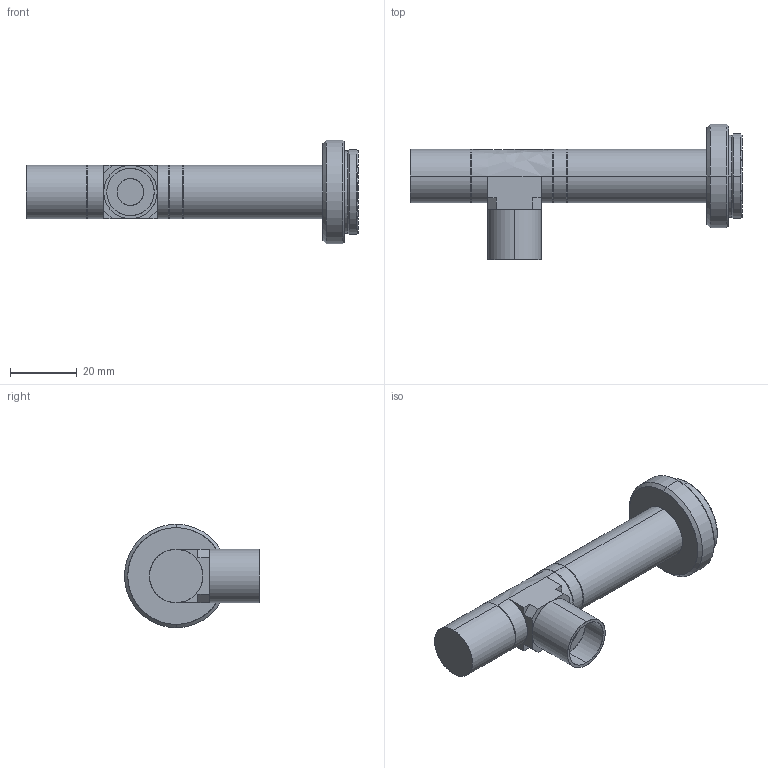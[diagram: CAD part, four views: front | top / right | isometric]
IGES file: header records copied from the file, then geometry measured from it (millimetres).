
Start section: SolidWorks IGES file using analytic representation for surfaces
Bounding box: 99.5 x 40.5 x 31 mm (x, y, z)
Surface area: 8432.4 mm2 (no closed solid volume)
Topology: 0 solids, 0 shells, 64 faces, 724 edges, 724 vertices
Faces by surface type: revolution 41, bspline 23
